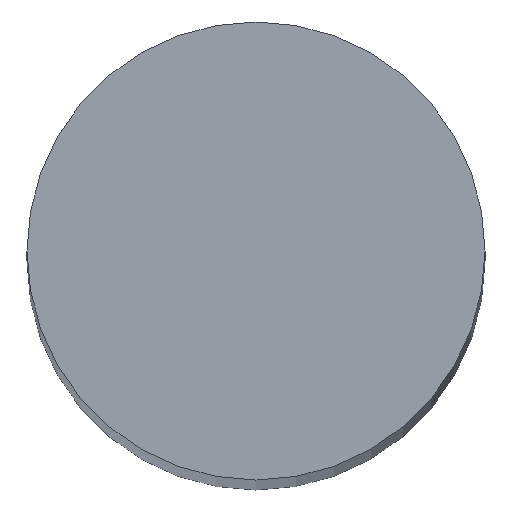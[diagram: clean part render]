
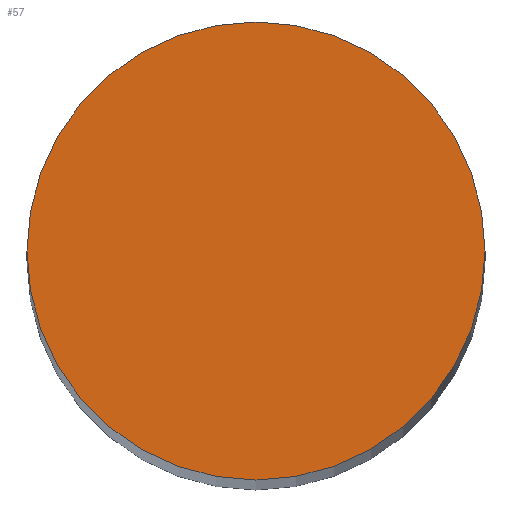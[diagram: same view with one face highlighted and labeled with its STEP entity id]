
A CAD part, top view. The second image highlights one B-rep face of the part: STEP entity #57.
In plain terms, the highlighted planar face has unit normal (0, 0, 1).
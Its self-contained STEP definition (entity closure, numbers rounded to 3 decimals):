
#1 = CIRCLE ( 'NONE', #6, 6. ) ;
#2 = DIRECTION ( 'NONE',  ( 0., 0., 1. ) ) ;
#3 = CARTESIAN_POINT ( 'NONE',  ( 0., 0., 150. ) ) ;
#5 = DIRECTION ( 'NONE',  ( 1., 0., 0. ) ) ;
#6 = AXIS2_PLACEMENT_3D ( 'NONE', #3, #2, #5 ) ;
#8 = EDGE_CURVE ( 'NONE', #17, #65, #31, .T. ) ;
#17 = VERTEX_POINT ( 'NONE', #61 ) ;
#18 = EDGE_LOOP ( 'NONE', ( #49, #23 ) ) ;
#23 = ORIENTED_EDGE ( 'NONE', *, *, #8, .T. ) ;
#28 = AXIS2_PLACEMENT_3D ( 'NONE', #48, #47, #46 ) ;
#31 = CIRCLE ( 'NONE', #28, 6. ) ;
#44 = EDGE_CURVE ( 'NONE', #65, #17, #1, .T. ) ;
#46 = DIRECTION ( 'NONE',  ( 1., 0., 0. ) ) ;
#47 = DIRECTION ( 'NONE',  ( 0., 0., 1. ) ) ;
#48 = CARTESIAN_POINT ( 'NONE',  ( 0., 0., 150. ) ) ;
#49 = ORIENTED_EDGE ( 'NONE', *, *, #44, .T. ) ;
#57 = ADVANCED_FACE ( 'NONE', ( #174 ), #86, .T. ) ;
#61 = CARTESIAN_POINT ( 'NONE',  ( 6., 0., 150. ) ) ;
#65 = VERTEX_POINT ( 'NONE', #77 ) ;
#77 = CARTESIAN_POINT ( 'NONE',  ( -6., 0., 150. ) ) ;
#81 = DIRECTION ( 'NONE',  ( 0., 0., 1. ) ) ;
#84 = CARTESIAN_POINT ( 'NONE',  ( 0., 0., 150. ) ) ;
#86 = PLANE ( 'NONE',  #98 ) ;
#98 = AXIS2_PLACEMENT_3D ( 'NONE', #84, #81, #122 ) ;
#122 = DIRECTION ( 'NONE',  ( 1., 0., 0. ) ) ;
#174 = FACE_OUTER_BOUND ( 'NONE', #18, .T. ) ;
